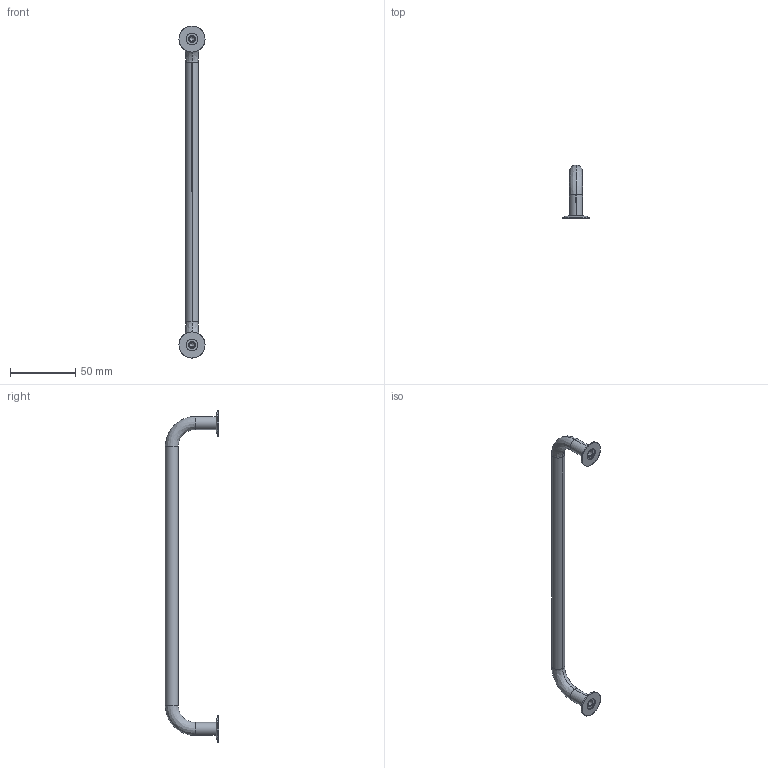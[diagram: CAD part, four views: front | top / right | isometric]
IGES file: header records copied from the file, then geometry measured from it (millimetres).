
Start section: SolidWorks IGES file using analytic representation for surfaces
Global section: file name: C:\Documents and Settings\IANO\Desktop\Temp File\Process pending\PCN pending\78700_v2\78700_v2_20170116_IGES\78700.W0523.igs; native system: SolidWorks 2009; preprocessor: SolidWorks 2009; author: IANO; date: 170310.095936; units: millimetre
Bounding box: 20 x 41 x 255 mm (x, y, z)
Surface area: 10818.6 mm2 (no closed solid volume)
Topology: 0 solids, 0 shells, 52 faces, 808 edges, 804 vertices
Faces by surface type: revolution 38, bspline 14
